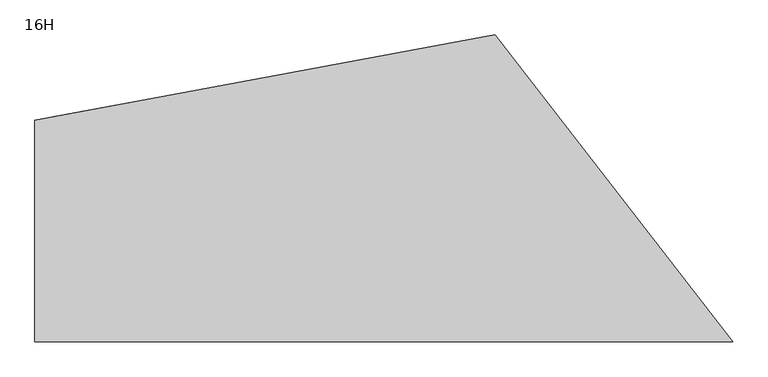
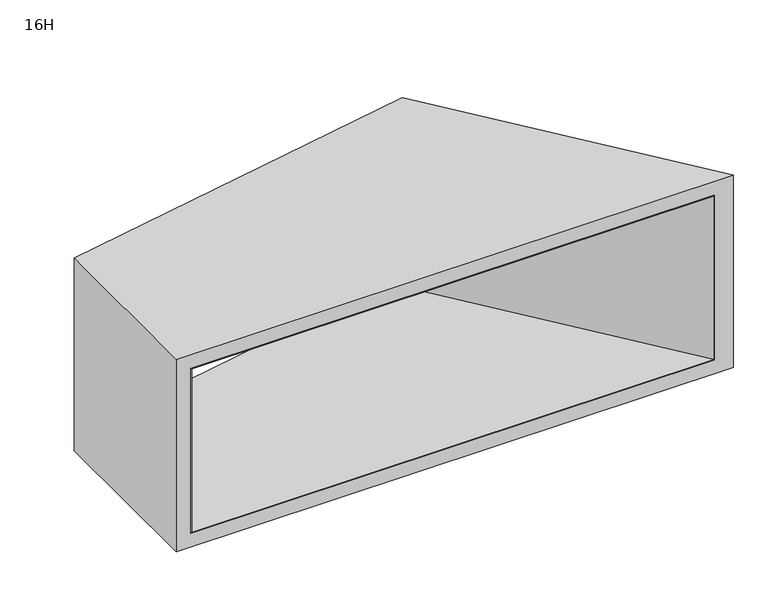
"""IFC4 building model written with IfcOpenShell, lengths in millimetres: furniture geometry, Coalesse_AM_Table_Occasional_Sebastopol_Large : 16H."""

from ifc_helpers import new_model, si_unit, point, frame, frame_2d, origin, origin_with_axes, place, context, project, spatial, polyline, circle_curve, trimmed, segment, composite_curve, outline, extrude, faceted_brep, source, transform, mapped, element, save


def furniture_16h_4ca54182(model_context):
    return source(origin(), model_context, "Body", "SolidModel", [
        extrude(outline(polyline([(-386.6129041, 451.557615), (-36.5419736, 0.0), (-1012.5201736, 0.0), (-1012.5201736, 335.5525594), (-386.6129041, 451.557615)])), frame((0.0, 0.0, 53.0098), z_axis=(0.0, 0.0, 1.0), x_axis=(1.0, 0.0, 0.0)), (0.0, 0.0, 1.0), 1.524),
        extrude(outline(composite_curve([segment(trimmed(circle_curve(frame_2d((-409.0244772, 393.2172198)), 4.826), [point((-413.8504772, 393.2172198))], [point((-404.1984772, 393.2172198))], False, "CARTESIAN"), True, "CONTINUOUS"), segment(trimmed(circle_curve(frame_2d((-409.0244772, 393.2172198)), 4.826), [point((-404.1984772, 393.2172198))], [point((-413.8504772, 393.2172198))], False, "CARTESIAN"), True, "CONTINUOUS")], self_intersect=False)), frame((0.0, 0.0, 13.97), z_axis=(0.0, 0.0, 1.0), x_axis=(1.0, 0.0, 0.0)), (0.0, 0.0, 1.0), 11.4300008),
        extrude(outline(composite_curve([segment(trimmed(circle_curve(frame_2d((-409.0099832, 393.153578)), 17.526), [point((-426.5359832, 393.153578))], [point((-391.4839832, 393.153578))], False, "CARTESIAN"), True, "CONTINUOUS"), segment(trimmed(circle_curve(frame_2d((-409.0099832, 393.153578)), 17.526), [point((-391.4839832, 393.153578))], [point((-426.5359832, 393.153578))], False, "CARTESIAN"), True, "CONTINUOUS")], self_intersect=False)), origin_with_axes(), (0.0, 0.0, 1.0), 13.97),
        extrude(outline(composite_curve([segment(trimmed(circle_curve(frame_2d((-987.4333665, 285.936034)), 4.826), [point((-992.2593665, 285.936034))], [point((-982.6073665, 285.936034))], False, "CARTESIAN"), True, "CONTINUOUS"), segment(trimmed(circle_curve(frame_2d((-987.4333665, 285.936034)), 4.826), [point((-982.6073665, 285.936034))], [point((-992.2593665, 285.936034))], False, "CARTESIAN"), True, "CONTINUOUS")], self_intersect=False)), frame((0.0, 0.0, 13.97), z_axis=(0.0, 0.0, 1.0), x_axis=(1.0, 0.0, 0.0)), (0.0, 0.0, 1.0), 11.4300008),
        extrude(outline(composite_curve([segment(trimmed(circle_curve(frame_2d((-987.4188726, 285.8723922)), 17.526), [point((-1004.9448726, 285.8723922))], [point((-969.8928726, 285.8723922))], False, "CARTESIAN"), True, "CONTINUOUS"), segment(trimmed(circle_curve(frame_2d((-987.4188726, 285.8723922)), 17.526), [point((-969.8928726, 285.8723922))], [point((-1004.9448726, 285.8723922))], False, "CARTESIAN"), True, "CONTINUOUS")], self_intersect=False)), origin_with_axes(), (0.0, 0.0, 1.0), 13.97),
        extrude(outline(composite_curve([segment(trimmed(circle_curve(frame_2d((-144.7693521, 53.3510514)), 4.826), [point((-149.5953521, 53.3510514))], [point((-139.9433521, 53.3510514))], False, "CARTESIAN"), True, "CONTINUOUS"), segment(trimmed(circle_curve(frame_2d((-144.7693521, 53.3510514)), 4.826), [point((-139.9433521, 53.3510514))], [point((-149.5953521, 53.3510514))], False, "CARTESIAN"), True, "CONTINUOUS")], self_intersect=False)), frame((0.0, 0.0, 13.97), z_axis=(0.0, 0.0, 1.0), x_axis=(1.0, 0.0, 0.0)), (0.0, 0.0, 1.0), 11.4300008),
        extrude(outline(composite_curve([segment(trimmed(circle_curve(frame_2d((-144.7548582, 53.2874096)), 17.526), [point((-162.2808582, 53.2874096))], [point((-127.2288582, 53.2874096))], False, "CARTESIAN"), True, "CONTINUOUS"), segment(trimmed(circle_curve(frame_2d((-144.7548582, 53.2874096)), 17.526), [point((-127.2288582, 53.2874096))], [point((-162.2808582, 53.2874096))], False, "CARTESIAN"), True, "CONTINUOUS")], self_intersect=False)), origin_with_axes(), (0.0, 0.0, 1.0), 13.97),
        extrude(outline(composite_curve([segment(trimmed(circle_curve(frame_2d((-987.4333665, 53.3510514)), 4.826), [point((-992.2593665, 53.3510514))], [point((-982.6073665, 53.3510514))], False, "CARTESIAN"), True, "CONTINUOUS"), segment(trimmed(circle_curve(frame_2d((-987.4333665, 53.3510514)), 4.826), [point((-982.6073665, 53.3510514))], [point((-992.2593665, 53.3510514))], False, "CARTESIAN"), True, "CONTINUOUS")], self_intersect=False)), frame((0.0, 0.0, 13.97), z_axis=(0.0, 0.0, 1.0), x_axis=(1.0, 0.0, 0.0)), (0.0, 0.0, 1.0), 11.4300008),
        extrude(outline(composite_curve([segment(trimmed(circle_curve(frame_2d((-987.4188726, 53.2874096)), 17.526), [point((-1004.9448726, 53.2874096))], [point((-969.8928726, 53.2874096))], False, "CARTESIAN"), True, "CONTINUOUS"), segment(trimmed(circle_curve(frame_2d((-987.4188726, 53.2874096)), 17.526), [point((-969.8928726, 53.2874096))], [point((-1004.9448726, 53.2874096))], False, "CARTESIAN"), True, "CONTINUOUS")], self_intersect=False)), origin_with_axes(), (0.0, 0.0, 1.0), 13.97),
        extrude(outline(polyline([(-385.2078427, 451.8180277), (-34.9350268, 0.0), (-36.5419734, 0.0), (-386.6129039, 451.557615), (-385.2078427, 451.8180277)])), frame((0.0, 0.0, 53.0098), z_axis=(0.0, 0.0, 1.0), x_axis=(1.0, 0.0, 0.0)), (0.0, 0.0, 1.0), 325.7803879),
        extrude(outline(polyline([(-1012.5201736, 0.0), (-1013.7902, 0.0), (-1013.7902, 335.317178), (-1012.5201736, 335.5525634), (-1012.5201736, 0.0)])), frame((0.0, 0.0, 53.0098), z_axis=(0.0, 0.0, 1.0), x_axis=(1.0, 0.0, 0.0)), (0.0, 0.0, 1.0), 325.7803879),
        extrude(outline(polyline([(-386.6129041, 451.557615), (-36.5419736, 0.0), (-1012.5201736, 0.0), (-1012.5201736, 335.5525594), (-386.6129041, 451.557615)])), frame((0.0, 0.0, 377.2661879), z_axis=(0.0, 0.0, 1.0), x_axis=(1.0, 0.0, 0.0)), (0.0, 0.0, 1.0), 1.524),
        faceted_brep([(-1041.4000242, 330.1999955, 406.4), (-1041.4000242, 0.0, 406.4), (0.0, 0.0, 406.4), (-354.6618066, 457.4794009, 406.4), (-1041.4000242, 330.1999955, 25.4000008), (-354.6618066, 457.4794009, 25.4000008), (0.0, 0.0, 25.4000008), (-1041.4000242, 0.0, 25.4000008), (-1013.7902, 0.0, 378.7901879), (-34.9350268, 0.0, 378.7901879), (-34.9350268, 0.0, 53.0098), (-1013.7902, 0.0, 53.0098), (-385.2078427, 451.8180277, 378.7901879), (-1013.7902, 335.317174, 378.7901879), (-1013.7902, 335.317174, 53.0098), (-385.2078427, 451.8180277, 53.0098)], [[[0, 1, 2, 3]], [[4, 5, 6, 7]], [[1, 0, 4, 7]], [[2, 1, 7, 6], [8, 9, 10, 11]], [[3, 2, 6, 5]], [[0, 3, 5, 4], [12, 13, 14, 15]], [[12, 9, 8, 13]], [[14, 11, 10, 15]], [[13, 8, 11, 14]], [[9, 12, 15, 10]]]),
    ])


if __name__ == "__main__":
    model = new_model("IFC4")
    model_context = context("Model", 3, world=origin())
    ifc_project = project(units=[si_unit("LENGTHUNIT", "METRE", prefix="MILLI")], contexts=[model_context])
    site = spatial("IfcSite", under=ifc_project)
    building = spatial("IfcBuilding", under=site)
    placement = place(None, origin())
    furniture_16h_shape = furniture_16h_4ca54182(model_context)
    element("IfcFurniture", 1, ObjectType="Coalesse_AM_Table_Occasional_Sebastopol_Large : 16H", at=placement, inside=building, context=model_context, shape_type="MappedRepresentation", body=[
        mapped(furniture_16h_shape, transform((0.0, 0.0, 0.0), x_axis=(1.0, 0.0, 0.0), y_axis=(0.0, 1.0, 0.0), z_axis=(0.0, 0.0, 1.0))),
    ])
    save(model, "model.ifc")
